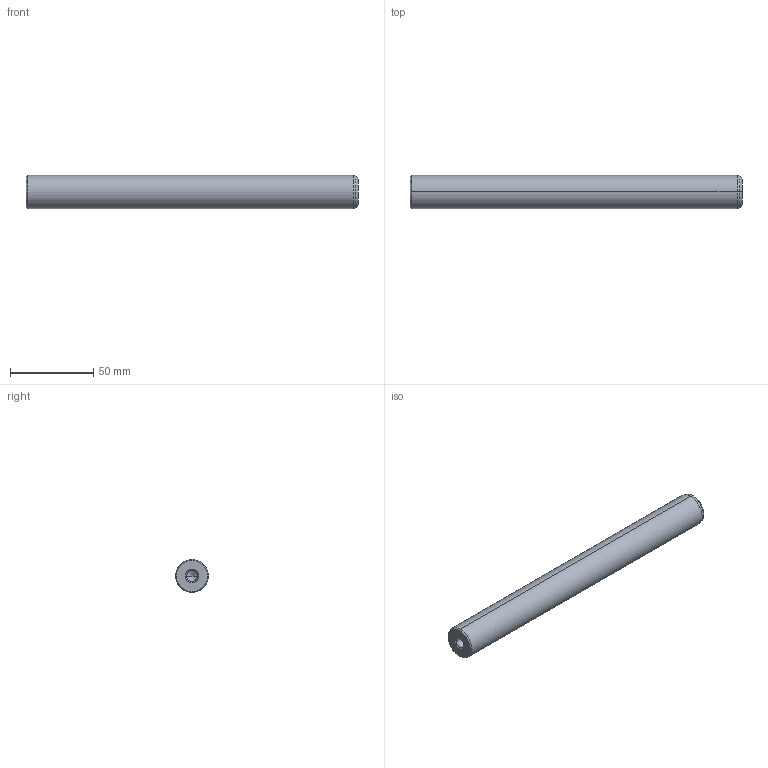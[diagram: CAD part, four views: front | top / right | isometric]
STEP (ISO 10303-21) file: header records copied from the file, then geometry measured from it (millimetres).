
FILE_DESCRIPTION(('CATIA V5 STEP Exchange'),'2;1');
FILE_NAME('C:\Users\Utente\Desktop\IO LAVORO\3D X SITO CF\X SITO\720\720-20x200.stp','2021-01-01T12:57:57+00:00',('none'),('none'),'CATIA Version 5 Release 20 GA (IN-10)','CATIA V5 STEP AP203','none');
FILE_SCHEMA(('CONFIG_CONTROL_DESIGN'));
Length unit declared in the file: millimetre
Products named in the file (1): 720-20x200
Bounding box: 200 x 20 x 20 mm (x, y, z)
Volume: 60994.7 mm3; surface area: 14087.9 mm2
Topology: 1 solids, 1 shells, 22 faces, 56 edges, 34 vertices
Faces by surface type: cone 12, cylinder 6, plane 2, torus 2
Entity records: 749 total; most frequent: CARTESIAN_POINT 210, ORIENTED_EDGE 104, DIRECTION 89, EDGE_CURVE 52, AXIS2_PLACEMENT_3D 50, VERTEX_POINT 34, CIRCLE 27, EDGE_LOOP 24
